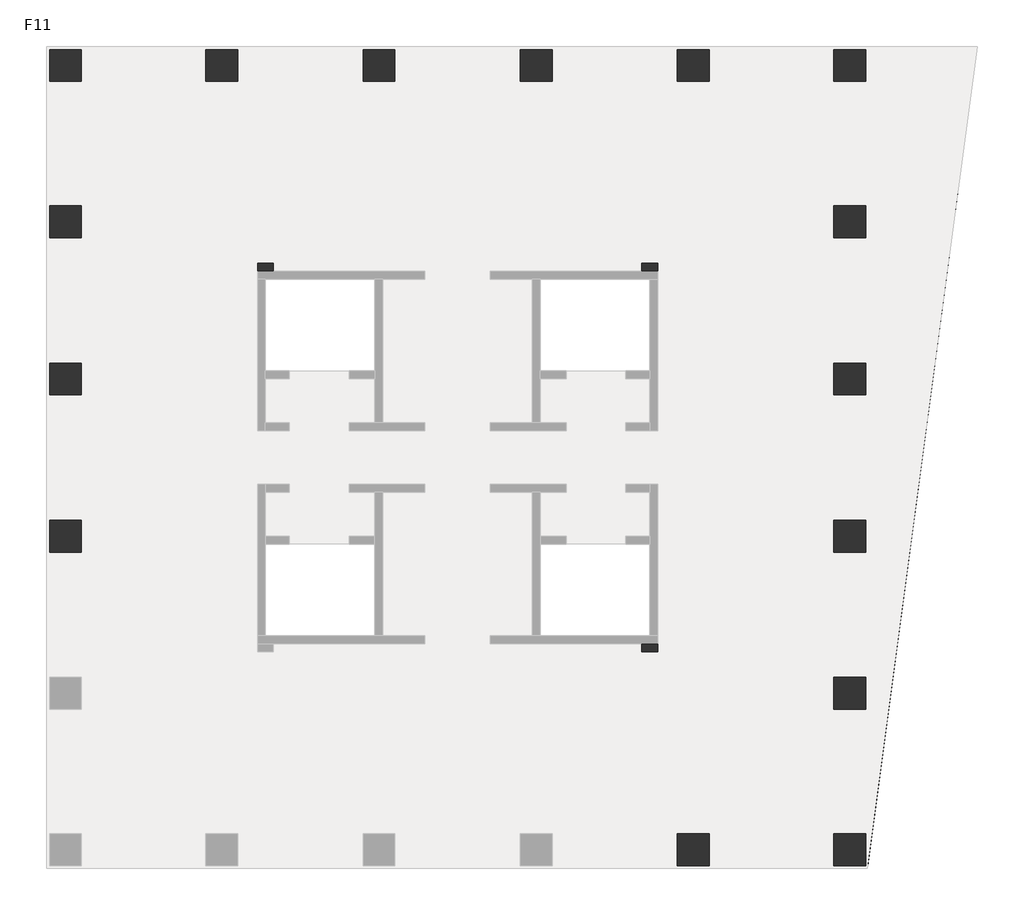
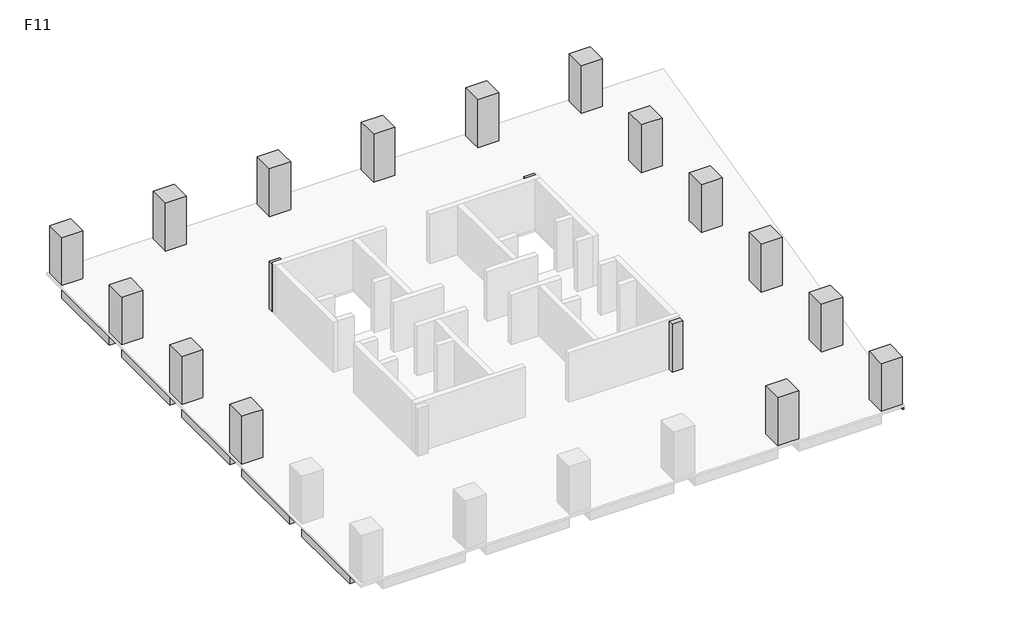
# One storey, part 2 of 2: 21 beams, 18 columns.
"""IFC4 building model written with IfcOpenShell, lengths in millimetres."""

from ifc_helpers import new_model, si_unit, frame, origin, place, context, project, spatial, polyline, outline, extrude, faceted_brep, element, save

model = new_model("IFC4")

# Units and contexts
model_context = context("Model", 3, world=origin())
ifc_project = project(units=[si_unit("LENGTHUNIT", "METRE", prefix="MILLI")], contexts=[model_context])

# Site, building, storey
site = spatial("IfcSite", under=ifc_project)
building = spatial("IfcBuilding", under=site)
storey = spatial("IfcBuildingStorey", under=building, Name="F11", Elevation=44000.0)

# Beams
placement = place(None, origin())
element("IfcBeam", 1, ObjectType="混凝土 - 矩形梁 : KL(5)-800x1000", at=placement, inside=storey, context=model_context, shape_type="SweptSolid", body=[
    extrude(outline(polyline([(25327.3257831, 27051.0498658), (25327.3257831, 26251.0498658), (19077.3257831, 26251.0498658), (19077.3257831, 27051.0498658), (25327.3257831, 27051.0498658)])), frame((0.0, 0.0, 43000.0), z_axis=(0.0, 0.0, 1.0), x_axis=(1.0, 0.0, 0.0)), (0.0, 0.0, 1.0), 840.0),
    extrude(outline(polyline([(-12472.6742169, 26251.0498658), (-12472.6742169, 27051.0498658), (-6222.6742169, 27051.0498658), (-6222.6742169, 26251.0498658), (-12472.6742169, 26251.0498658)])), frame((0.0, 0.0, 43000.0), z_axis=(0.0, 0.0, 1.0), x_axis=(1.0, 0.0, 0.0)), (0.0, 0.0, 1.0), 840.0),
    extrude(outline(polyline([(-4622.6742169, 26251.0498658), (-4622.6742169, 27051.0498658), (1677.3257831, 27051.0498658), (1677.3257831, 26251.0498658), (-4622.6742169, 26251.0498658)])), frame((0.0, 0.0, 43000.0), z_axis=(0.0, 0.0, 1.0), x_axis=(1.0, 0.0, 0.0)), (0.0, 0.0, 1.0), 840.0),
    extrude(outline(polyline([(3277.3257831, 26251.0498658), (3277.3257831, 27051.0498658), (9577.3257831, 27051.0498658), (9577.3257831, 26251.0498658), (3277.3257831, 26251.0498658)])), frame((0.0, 0.0, 43000.0), z_axis=(0.0, 0.0, 1.0), x_axis=(1.0, 0.0, 0.0)), (0.0, 0.0, 1.0), 840.0),
    extrude(outline(polyline([(11177.3257831, 26251.0498658), (11177.3257831, 27051.0498658), (17477.3257831, 27051.0498658), (17477.3257831, 26251.0498658), (11177.3257831, 26251.0498658)])), frame((0.0, 0.0, 43000.0), z_axis=(0.0, 0.0, 1.0), x_axis=(1.0, 0.0, 0.0)), (0.0, 0.0, 1.0), 840.0),
])
element("IfcBeam", 2, ObjectType="混凝土 - 矩形梁 : KL(5)-800x1000", at=placement, inside=storey, context=model_context, shape_type="Brep", body=[
    faceted_brep([(26927.3257831, 26251.0498658, 43000.0), (32422.0087099, 26251.0498658, 43000.0), (32422.0087099, 26251.0498658, 43840.0), (32018.4257091, 26251.0498658, 43840.0), (26927.3257831, 26251.0498658, 43840.0), (32422.0087099, 27051.0498658, 43000.0), (26927.3257831, 27051.0498658, 43000.0), (26927.3257831, 27051.0498658, 43840.0), (32422.0087099, 27051.0498658, 43840.0)], [[[0, 1, 2, 3, 4]], [[5, 1, 0, 6]], [[5, 6, 7, 8]], [[1, 5, 8, 2]], [[6, 0, 4, 7]], [[4, 3, 2, 8, 7]]]),
])
element("IfcBeam", 3, ObjectType="混凝土 - 矩形梁 : KL(5)-800x1000", at=placement, inside=storey, context=model_context, shape_type="Brep", body=[
    faceted_brep([(26127.3257831, -6098.9501342, 43000.0), (26127.3257831, -12348.9501342, 43000.0), (26127.3257831, -12348.9501342, 43840.0), (26127.3257831, -6098.9501342, 43840.0), (26927.3257831, -12348.9501342, 43000.0), (26927.3257831, -6098.9501342, 43000.0), (26927.3257831, -6098.9501342, 43840.0), (26927.3257831, -11700.7859463, 43840.0), (26927.3257831, -12348.9501342, 43840.0)], [[[0, 1, 2, 3]], [[4, 1, 0, 5]], [[4, 5, 6, 7, 8]], [[1, 4, 8, 2]], [[5, 0, 3, 6]], [[3, 2, 8, 7, 6]]]),
    faceted_brep([(26927.3257831, 25451.0498658, 43000.0), (26127.3257831, 25451.0498658, 43000.0), (26127.3257831, 25451.0498658, 43840.0), (26927.3257831, 25451.0498658, 43840.0), (26127.3257831, 19201.0498658, 43000.0), (26927.3257831, 19201.0498658, 43000.0), (26927.3257831, 19201.0498658, 43840.0), (26127.3257831, 19201.0498658, 43840.0)], [[[0, 1, 2, 3]], [[4, 5, 6, 7]], [[1, 4, 7, 2]], [[1, 0, 5, 4]], [[5, 0, 3, 6]], [[3, 2, 7, 6]]]),
    faceted_brep([(26927.3257831, 17601.0498658, 43000.0), (26127.3257831, 17601.0498658, 43000.0), (26127.3257831, 17601.0498658, 43840.0), (26927.3257831, 17601.0498658, 43840.0), (26127.3257831, 11301.0498658, 43000.0), (26927.3257831, 11301.0498658, 43000.0), (26927.3257831, 11301.0498658, 43840.0), (26127.3257831, 11301.0498658, 43840.0)], [[[0, 1, 2, 3]], [[4, 5, 6, 7]], [[1, 4, 7, 2]], [[1, 0, 5, 4]], [[5, 0, 3, 6]], [[3, 2, 7, 6]]]),
    faceted_brep([(26927.3257831, 9701.0498658, 43000.0), (26127.3257831, 9701.0498658, 43000.0), (26127.3257831, 9701.0498658, 43840.0), (26927.3257831, 9701.0498658, 43840.0), (26127.3257831, 3401.0498658, 43000.0), (26927.3257831, 3401.0498658, 43000.0), (26927.3257831, 3401.0498658, 43840.0), (26127.3257831, 3401.0498658, 43840.0)], [[[0, 1, 2, 3]], [[4, 5, 6, 7]], [[1, 4, 7, 2]], [[1, 0, 5, 4]], [[5, 0, 3, 6]], [[3, 2, 7, 6]]]),
    faceted_brep([(26927.3257831, 1801.0498658, 43000.0), (26127.3257831, 1801.0498658, 43000.0), (26127.3257831, 1801.0498658, 43840.0), (26927.3257831, 1801.0498658, 43840.0), (26127.3257831, -4498.9501342, 43000.0), (26927.3257831, -4498.9501342, 43000.0), (26927.3257831, -4498.9501342, 43840.0), (26127.3257831, -4498.9501342, 43840.0)], [[[0, 1, 2, 3]], [[4, 5, 6, 7]], [[1, 4, 7, 2]], [[1, 0, 5, 4]], [[5, 0, 3, 6]], [[3, 2, 7, 6]]]),
])
element("IfcBeam", 4, ObjectType="混凝土 - 矩形梁 : KL(5)-800x1000", at=placement, inside=storey, context=model_context, shape_type="SweptSolid", body=[
    extrude(outline(polyline([(-14072.6742169, 25451.0498658), (-13272.6742169, 25451.0498658), (-13272.6742169, 19201.0498658), (-14072.6742169, 19201.0498658), (-14072.6742169, 25451.0498658)])), frame((0.0, 0.0, 43000.0), z_axis=(0.0, 0.0, 1.0), x_axis=(1.0, 0.0, 0.0)), (0.0, 0.0, 1.0), 840.0),
    extrude(outline(polyline([(-13272.6742169, -12348.9501342), (-14072.6742169, -12348.9501342), (-14072.6742169, -6098.9501342), (-13272.6742169, -6098.9501342), (-13272.6742169, -12348.9501342)])), frame((0.0, 0.0, 43000.0), z_axis=(0.0, 0.0, 1.0), x_axis=(1.0, 0.0, 0.0)), (0.0, 0.0, 1.0), 840.0),
    extrude(outline(polyline([(-14072.6742169, 17601.0498658), (-13272.6742169, 17601.0498658), (-13272.6742169, 11301.0498658), (-14072.6742169, 11301.0498658), (-14072.6742169, 17601.0498658)])), frame((0.0, 0.0, 43000.0), z_axis=(0.0, 0.0, 1.0), x_axis=(1.0, 0.0, 0.0)), (0.0, 0.0, 1.0), 840.0),
    extrude(outline(polyline([(-14072.6742169, 9701.0498658), (-13272.6742169, 9701.0498658), (-13272.6742169, 3401.0498658), (-14072.6742169, 3401.0498658), (-14072.6742169, 9701.0498658)])), frame((0.0, 0.0, 43000.0), z_axis=(0.0, 0.0, 1.0), x_axis=(1.0, 0.0, 0.0)), (0.0, 0.0, 1.0), 840.0),
    extrude(outline(polyline([(-14072.6742169, 1801.0498658), (-13272.6742169, 1801.0498658), (-13272.6742169, -4498.9501342), (-14072.6742169, -4498.9501342), (-14072.6742169, 1801.0498658)])), frame((0.0, 0.0, 43000.0), z_axis=(0.0, 0.0, 1.0), x_axis=(1.0, 0.0, 0.0)), (0.0, 0.0, 1.0), 840.0),
])
element("IfcBeam", 5, ObjectType="混凝土 - 矩形梁 : L1-800x500", at=placement, inside=storey, context=model_context, shape_type="SweptSolid", body=[
    extrude(outline(polyline([(-12472.6742169, 2201.0498658), (-12472.6742169, 3001.0498658), (-3622.6742169, 3001.0498658), (-3622.6742169, 2201.0498658), (-12472.6742169, 2201.0498658)])), frame((0.0, 0.0, 43500.0), z_axis=(0.0, 0.0, 1.0), x_axis=(1.0, 0.0, 0.0)), (0.0, 0.0, 1.0), 340.0),
])
element("IfcBeam", 6, ObjectType="混凝土 - 矩形梁 : L1-800x500", at=placement, inside=storey, context=model_context, shape_type="SweptSolid", body=[
    extrude(outline(polyline([(-12472.6742169, 10101.0498658), (-12472.6742169, 10901.0498658), (-3622.6742169, 10901.0498658), (-3622.6742169, 10101.0498658), (-12472.6742169, 10101.0498658)])), frame((0.0, 0.0, 43500.0), z_axis=(0.0, 0.0, 1.0), x_axis=(1.0, 0.0, 0.0)), (0.0, 0.0, 1.0), 340.0),
])
element("IfcBeam", 7, ObjectType="混凝土 - 矩形梁 : L1-800x500", at=placement, inside=storey, context=model_context, shape_type="Brep", body=[
    faceted_brep([(-12472.6742169, 17789.85471, 43500.0), (-3622.6742169, 15588.3621727, 43500.0), (-3622.6742169, 15588.3621727, 43840.0), (-12472.6742169, 17789.85471, 43840.0), (-3173.6696907, 16301.0498658, 43500.0), (-3622.6742169, 16301.0498658, 43500.0), (-3622.6742169, 15901.0498658, 43500.0), (-12472.6742169, 18614.2350714, 43500.0), (-3746.9473979, 16443.6562607, 43500.0), (-12472.6742169, 18614.2350714, 43840.0), (-3746.9473979, 16443.6562607, 43840.0), (-3173.6696907, 16301.0498658, 43840.0), (-3622.6742169, 16301.0498658, 43840.0)], [[[0, 1, 2, 3]], [[4, 5, 6, 1, 0, 7, 8]], [[4, 8, 7, 9, 10, 11]], [[6, 5, 12, 2, 1]], [[5, 4, 11, 12]], [[7, 0, 3, 9]], [[3, 2, 12, 11, 10, 9]]]),
])
element("IfcBeam", 8, ObjectType="混凝土 - 矩形梁 : L1-800x500", at=placement, inside=storey, context=model_context, shape_type="SweptSolid", body=[
    extrude(outline(polyline([(-3173.6696907, 16301.0498658), (-3746.9473979, 16443.6562607), (-5661.5624638, 25451.0498658), (-4843.6893517, 25451.0498658), (-2898.7618154, 16301.0498658), (-3173.6696907, 16301.0498658)])), frame((0.0, 0.0, 43500.0), z_axis=(0.0, 0.0, 1.0), x_axis=(1.0, 0.0, 0.0)), (0.0, 0.0, 1.0), 340.0),
])
element("IfcBeam", 9, ObjectType="混凝土 - 矩形梁 : L1-800x500", at=placement, inside=storey, context=model_context, shape_type="SweptSolid", body=[
    extrude(outline(polyline([(2077.3257831, 25451.0498658), (2877.3257831, 25451.0498658), (2877.3257831, 15901.0498658), (2077.3257831, 15901.0498658), (2077.3257831, 25451.0498658)])), frame((0.0, 0.0, 43500.0), z_axis=(0.0, 0.0, 1.0), x_axis=(1.0, 0.0, 0.0)), (0.0, 0.0, 1.0), 340.0),
])
element("IfcBeam", 10, ObjectType="混凝土 - 矩形梁 : L1-800x500", at=placement, inside=storey, context=model_context, shape_type="SweptSolid", body=[
    extrude(outline(polyline([(9977.3257831, 25451.0498658), (10777.3257831, 25451.0498658), (10777.3257831, 15901.0498658), (9977.3257831, 15901.0498658), (9977.3257831, 25451.0498658)])), frame((0.0, 0.0, 43500.0), z_axis=(0.0, 0.0, 1.0), x_axis=(1.0, 0.0, 0.0)), (0.0, 0.0, 1.0), 340.0),
])
element("IfcBeam", 11, ObjectType="混凝土 - 矩形梁 : L1-800x500", at=placement, inside=storey, context=model_context, shape_type="Brep", body=[
    faceted_brep([(25327.3257831, -4687.7549784, 43500.0), (16477.3257831, -2486.2624411, 43500.0), (16477.3257831, -2486.2624411, 43840.0), (25327.3257831, -4687.7549784, 43840.0), (16028.3212569, -3198.9501342, 43500.0), (16477.3257831, -3198.9501342, 43500.0), (16477.3257831, -2798.9501342, 43500.0), (25327.3257831, -5512.1353397, 43500.0), (16601.5989641, -3341.556529, 43500.0), (25327.3257831, -5512.1353397, 43840.0), (16601.5989641, -3341.556529, 43840.0), (16028.3212569, -3198.9501342, 43840.0), (16477.3257831, -3198.9501342, 43840.0)], [[[0, 1, 2, 3]], [[4, 5, 6, 1, 0, 7, 8]], [[4, 8, 7, 9, 10, 11]], [[6, 5, 12, 2, 1]], [[5, 4, 11, 12]], [[7, 0, 3, 9]], [[3, 2, 12, 11, 10, 9]]]),
])
element("IfcBeam", 12, ObjectType="混凝土 - 矩形梁 : L1-800x500", at=placement, inside=storey, context=model_context, shape_type="SweptSolid", body=[
    extrude(outline(polyline([(16028.3212569, -3198.9501342), (16601.5989641, -3341.556529), (18516.21403, -12348.9501342), (17698.3409179, -12348.9501342), (15753.4133817, -3198.9501342), (16028.3212569, -3198.9501342)])), frame((0.0, 0.0, 43500.0), z_axis=(0.0, 0.0, 1.0), x_axis=(1.0, 0.0, 0.0)), (0.0, 0.0, 1.0), 340.0),
])
element("IfcBeam", 13, ObjectType="混凝土 - 矩形梁 : L1-800x500", at=placement, inside=storey, context=model_context, shape_type="SweptSolid", body=[
    extrude(outline(polyline([(25327.3257831, 3001.0498658), (25327.3257831, 2201.0498658), (16477.3257831, 2201.0498658), (16477.3257831, 3001.0498658), (25327.3257831, 3001.0498658)])), frame((0.0, 0.0, 43500.0), z_axis=(0.0, 0.0, 1.0), x_axis=(1.0, 0.0, 0.0)), (0.0, 0.0, 1.0), 340.0),
])
element("IfcBeam", 14, ObjectType="混凝土 - 矩形梁 : L1-800x500", at=placement, inside=storey, context=model_context, shape_type="SweptSolid", body=[
    extrude(outline(polyline([(25327.3257831, 10901.0498658), (25327.3257831, 10101.0498658), (16477.3257831, 10101.0498658), (16477.3257831, 10901.0498658), (25327.3257831, 10901.0498658)])), frame((0.0, 0.0, 43500.0), z_axis=(0.0, 0.0, 1.0), x_axis=(1.0, 0.0, 0.0)), (0.0, 0.0, 1.0), 340.0),
])
element("IfcBeam", 15, ObjectType="混凝土 - 矩形梁 : L1-800x500", at=placement, inside=storey, context=model_context, shape_type="Brep", body=[
    faceted_brep([(25327.3257831, 18610.6867312, 43500.0), (16590.8993897, 16393.3196262, 43500.0), (16227.3565337, 16301.0498658, 43500.0), (16227.3565337, 16301.0498658, 43840.0), (16590.8993897, 16393.3196262, 43840.0), (25327.3257831, 18610.6867312, 43840.0), (16477.3257831, 16301.0498658, 43500.0), (25327.3257831, 17785.3216299, 43500.0), (16477.3257831, 15539.1287365, 43500.0), (16477.3257831, 15901.0498658, 43500.0), (25327.3257831, 17785.3216299, 43840.0), (16477.3257831, 15539.1287365, 43840.0), (16477.3257831, 16301.0498658, 43840.0)], [[[0, 1, 2, 3, 4, 5]], [[6, 2, 1, 0, 7, 8, 9]], [[8, 7, 10, 11]], [[9, 8, 11, 12, 6]], [[2, 6, 12, 3]], [[7, 0, 5, 10]], [[5, 4, 3, 12, 11, 10]]]),
])
element("IfcBeam", 16, ObjectType="混凝土 - 矩形梁 : L1-800x500", at=placement, inside=storey, context=model_context, shape_type="SweptSolid", body=[
    extrude(outline(polyline([(16590.8993897, 16393.3196262), (16227.3565337, 16301.0498658), (15753.4133817, 16301.0498658), (17698.3409179, 25451.0498658), (18516.21403, 25451.0498658), (16590.8993897, 16393.3196262)])), frame((0.0, 0.0, 43500.0), z_axis=(0.0, 0.0, 1.0), x_axis=(1.0, 0.0, 0.0)), (0.0, 0.0, 1.0), 340.0),
])
element("IfcBeam", 17, ObjectType="混凝土 - 矩形梁 : L2-400x400", at=placement, inside=storey, context=model_context, shape_type="Brep", body=[
    faceted_brep([(32422.0087099, 26251.0498658, 43600.0), (27029.3257831, -13948.9501342, 43600.0), (26927.3257831, -13935.2672073, 43600.0), (26927.3257831, -11700.7859463, 43600.0), (27759.2793677, -5498.9501342, 43600.0), (27812.9379042, -5098.9501342, 43600.0), (28819.0354652, 2401.0498658, 43600.0), (28872.6940018, 2801.0498658, 43600.0), (29878.7915628, 10301.0498658, 43600.0), (29932.4500994, 10701.0498658, 43600.0), (30938.5476603, 18201.0498658, 43600.0), (30992.2061969, 18601.0498658, 43600.0), (32018.4257091, 26251.0498658, 43600.0), (32422.0087099, 26251.0498658, 43840.0), (27029.3257831, -13948.9501342, 43840.0), (32018.4257091, 26251.0498658, 43840.0), (26927.3257831, -13935.2672073, 43840.0), (26927.3257831, -12348.9501342, 43840.0), (26927.3257831, -11700.7859463, 43840.0), (27759.2793677, -5498.9501342, 43840.0), (27812.9379042, -5098.9501342, 43840.0), (28819.0354652, 2401.0498658, 43840.0), (28872.6940018, 2801.0498658, 43840.0), (29878.7915628, 10301.0498658, 43840.0), (29932.4500994, 10701.0498658, 43840.0), (30938.5476603, 18201.0498658, 43840.0), (30992.2061969, 18601.0498658, 43840.0)], [[[0, 1, 2, 3, 4, 5, 6, 7, 8, 9, 10, 11, 12]], [[1, 0, 13, 14]], [[0, 12, 15, 13]], [[3, 2, 16, 17, 18]], [[12, 11, 10, 9, 8, 7, 6, 5, 4, 3, 18, 19, 20, 21, 22, 23, 24, 25, 26, 15]], [[2, 1, 14, 16]], [[14, 13, 15, 26, 25, 24, 23, 22, 21, 20, 19, 18, 17, 16]]]),
])
element("IfcBeam", 18, ObjectType="混凝土 - 矩形梁 : L2-400x400", at=placement, inside=storey, context=model_context, shape_type="SweptSolid", body=[
    extrude(outline(polyline([(30938.5476603, 18201.0498658), (26927.3257831, 18201.0498658), (26927.3257831, 18601.0498658), (30992.2061969, 18601.0498658), (30938.5476603, 18201.0498658)])), frame((0.0, 0.0, 43600.0), z_axis=(0.0, 0.0, 1.0), x_axis=(1.0, 0.0, 0.0)), (0.0, 0.0, 1.0), 240.0),
])
element("IfcBeam", 19, ObjectType="混凝土 - 矩形梁 : L2-400x400", at=placement, inside=storey, context=model_context, shape_type="SweptSolid", body=[
    extrude(outline(polyline([(29878.7915628, 10301.0498658), (26927.3257831, 10301.0498658), (26927.3257831, 10701.0498658), (29932.4500994, 10701.0498658), (29878.7915628, 10301.0498658)])), frame((0.0, 0.0, 43600.0), z_axis=(0.0, 0.0, 1.0), x_axis=(1.0, 0.0, 0.0)), (0.0, 0.0, 1.0), 240.0),
])
element("IfcBeam", 20, ObjectType="混凝土 - 矩形梁 : L2-400x400", at=placement, inside=storey, context=model_context, shape_type="SweptSolid", body=[
    extrude(outline(polyline([(28819.0354652, 2401.0498658), (26927.3257831, 2401.0498658), (26927.3257831, 2801.0498658), (28872.6940018, 2801.0498658), (28819.0354652, 2401.0498658)])), frame((0.0, 0.0, 43600.0), z_axis=(0.0, 0.0, 1.0), x_axis=(1.0, 0.0, 0.0)), (0.0, 0.0, 1.0), 240.0),
])
element("IfcBeam", 21, ObjectType="混凝土 - 矩形梁 : L2-400x400", at=placement, inside=storey, context=model_context, shape_type="SweptSolid", body=[
    extrude(outline(polyline([(27759.2793677, -5498.9501342), (26927.3257831, -5498.9501342), (26927.3257831, -5098.9501342), (27812.9379042, -5098.9501342), (27759.2793677, -5498.9501342)])), frame((0.0, 0.0, 43600.0), z_axis=(0.0, 0.0, 1.0), x_axis=(1.0, 0.0, 0.0)), (0.0, 0.0, 1.0), 240.0),
])

# Columns
element("IfcColumn", 22, ObjectType="混凝土 - 矩形 - 柱 : Z1-1600x1600", at=placement, inside=storey, context=model_context, shape_type="SweptSolid", body=[
    extrude(outline(polyline([(-12472.6742169, 27051.0498658), (-12472.6742169, 25451.0498658), (-14072.6742169, 25451.0498658), (-14072.6742169, 27051.0498658), (-12472.6742169, 27051.0498658)])), frame((0.0, 0.0, 44000.0), z_axis=(0.0, 0.0, 1.0), x_axis=(1.0, 0.0, 0.0)), (0.0, 0.0, 1.0), 3840.0),
])
element("IfcColumn", 23, ObjectType="混凝土 - 矩形 - 柱 : Z1-1600x1600", at=placement, inside=storey, context=model_context, shape_type="Brep", body=[
    faceted_brep([(-4622.6742169, 27051.0498658, 44000.0), (-4622.6742169, 25451.0498658, 44000.0), (-6222.6742169, 25451.0498658, 44000.0), (-6222.6742169, 27051.0498658, 44000.0), (-4622.6742169, 27051.0498658, 47000.0), (-4622.6742169, 27051.0498658, 47840.0), (-4622.6742169, 26251.0498658, 47840.0), (-4622.6742169, 25451.0498658, 47840.0), (-6222.6742169, 25451.0498658, 47840.0), (-6222.6742169, 26251.0498658, 47840.0), (-6222.6742169, 27051.0498658, 47840.0), (-6222.6742169, 27051.0498658, 47000.0)], [[[0, 1, 2, 3]], [[1, 0, 4, 5, 6, 7]], [[2, 1, 7, 8]], [[3, 2, 8, 9, 10, 11]], [[0, 3, 11, 10, 5, 4]], [[7, 6, 5, 10, 9, 8]]]),
])
element("IfcColumn", 24, ObjectType="混凝土 - 矩形 - 柱 : Z1-1600x1600", at=placement, inside=storey, context=model_context, shape_type="Brep", body=[
    faceted_brep([(-12472.6742169, 19201.0498658, 44000.0), (-12472.6742169, 17601.0498658, 44000.0), (-14072.6742169, 17601.0498658, 44000.0), (-14072.6742169, 19201.0498658, 44000.0), (-12472.6742169, 19201.0498658, 47840.0), (-12472.6742169, 17601.0498658, 47840.0), (-13272.6742169, 17601.0498658, 47840.0), (-14072.6742169, 17601.0498658, 47840.0), (-14072.6742169, 17601.0498658, 47000.0), (-14072.6742169, 19201.0498658, 47840.0), (-14072.6742169, 19201.0498658, 47000.0), (-13272.6742169, 19201.0498658, 47840.0)], [[[0, 1, 2, 3]], [[1, 0, 4, 5]], [[2, 1, 5, 6, 7, 8]], [[3, 2, 8, 7, 9, 10]], [[0, 3, 10, 9, 11, 4]], [[5, 4, 11, 9, 7, 6]]]),
])
element("IfcColumn", 25, ObjectType="混凝土 - 矩形 - 柱 : Z1-1600x1600", at=placement, inside=storey, context=model_context, shape_type="Brep", body=[
    faceted_brep([(-12472.6742169, 11301.0498658, 44000.0), (-12472.6742169, 9701.0498658, 44000.0), (-14072.6742169, 9701.0498658, 44000.0), (-14072.6742169, 11301.0498658, 44000.0), (-12472.6742169, 11301.0498658, 47840.0), (-12472.6742169, 9701.0498658, 47840.0), (-13272.6742169, 9701.0498658, 47840.0), (-14072.6742169, 9701.0498658, 47840.0), (-14072.6742169, 9701.0498658, 47000.0), (-14072.6742169, 11301.0498658, 47840.0), (-14072.6742169, 11301.0498658, 47000.0), (-13272.6742169, 11301.0498658, 47840.0)], [[[0, 1, 2, 3]], [[1, 0, 4, 5]], [[2, 1, 5, 6, 7, 8]], [[3, 2, 8, 7, 9, 10]], [[0, 3, 10, 9, 11, 4]], [[5, 4, 11, 9, 7, 6]]]),
])
element("IfcColumn", 26, ObjectType="混凝土 - 矩形 - 柱 : Z1-1600x1600", at=placement, inside=storey, context=model_context, shape_type="Brep", body=[
    faceted_brep([(-12472.6742169, 3401.0498658, 44000.0), (-12472.6742169, 1801.0498658, 44000.0), (-14072.6742169, 1801.0498658, 44000.0), (-14072.6742169, 3401.0498658, 44000.0), (-12472.6742169, 3401.0498658, 47840.0), (-12472.6742169, 1801.0498658, 47840.0), (-13272.6742169, 1801.0498658, 47840.0), (-14072.6742169, 1801.0498658, 47840.0), (-14072.6742169, 1801.0498658, 47000.0), (-14072.6742169, 3401.0498658, 47840.0), (-14072.6742169, 3401.0498658, 47000.0), (-13272.6742169, 3401.0498658, 47840.0)], [[[0, 1, 2, 3]], [[1, 0, 4, 5]], [[2, 1, 5, 6, 7, 8]], [[3, 2, 8, 7, 9, 10]], [[0, 3, 10, 9, 11, 4]], [[5, 4, 11, 9, 7, 6]]]),
])
element("IfcColumn", 27, ObjectType="混凝土 - 矩形 - 柱 : Z1-1600x1600", at=placement, inside=storey, context=model_context, shape_type="SweptSolid", body=[
    extrude(outline(polyline([(25327.3257831, 27051.0498658), (26927.3257831, 27051.0498658), (26927.3257831, 25451.0498658), (25327.3257831, 25451.0498658), (25327.3257831, 27051.0498658)])), frame((0.0, 0.0, 44000.0), z_axis=(0.0, 0.0, 1.0), x_axis=(1.0, 0.0, 0.0)), (0.0, 0.0, 1.0), 3840.0),
])
element("IfcColumn", 28, ObjectType="混凝土 - 矩形 - 柱 : Z1-1600x1600", at=placement, inside=storey, context=model_context, shape_type="Brep", body=[
    faceted_brep([(25327.3257831, 19201.0498658, 44000.0), (26927.3257831, 19201.0498658, 44000.0), (26927.3257831, 17601.0498658, 44000.0), (25327.3257831, 17601.0498658, 44000.0), (25327.3257831, 17601.0498658, 47840.0), (25327.3257831, 19201.0498658, 47840.0), (26927.3257831, 17601.0498658, 47000.0), (26927.3257831, 17601.0498658, 47840.0), (26127.3257831, 17601.0498658, 47840.0), (26927.3257831, 19201.0498658, 47000.0), (26927.3257831, 19201.0498658, 47840.0), (26127.3257831, 19201.0498658, 47840.0)], [[[0, 1, 2, 3]], [[0, 3, 4, 5]], [[3, 2, 6, 7, 8, 4]], [[2, 1, 9, 10, 7, 6]], [[1, 0, 5, 11, 10, 9]], [[5, 4, 8, 7, 10, 11]]]),
])
element("IfcColumn", 29, ObjectType="混凝土 - 矩形 - 柱 : Z1-1600x1600", at=placement, inside=storey, context=model_context, shape_type="Brep", body=[
    faceted_brep([(25327.3257831, 11301.0498658, 44000.0), (26927.3257831, 11301.0498658, 44000.0), (26927.3257831, 9701.0498658, 44000.0), (25327.3257831, 9701.0498658, 44000.0), (25327.3257831, 9701.0498658, 47840.0), (25327.3257831, 11301.0498658, 47840.0), (26927.3257831, 9701.0498658, 47000.0), (26927.3257831, 9701.0498658, 47840.0), (26127.3257831, 9701.0498658, 47840.0), (26927.3257831, 11301.0498658, 47000.0), (26927.3257831, 11301.0498658, 47840.0), (26127.3257831, 11301.0498658, 47840.0)], [[[0, 1, 2, 3]], [[0, 3, 4, 5]], [[3, 2, 6, 7, 8, 4]], [[2, 1, 9, 10, 7, 6]], [[1, 0, 5, 11, 10, 9]], [[5, 4, 8, 7, 10, 11]]]),
])
element("IfcColumn", 30, ObjectType="混凝土 - 矩形 - 柱 : Z1-1600x1600", at=placement, inside=storey, context=model_context, shape_type="Brep", body=[
    faceted_brep([(25327.3257831, 3401.0498658, 44000.0), (26927.3257831, 3401.0498658, 44000.0), (26927.3257831, 1801.0498658, 44000.0), (25327.3257831, 1801.0498658, 44000.0), (25327.3257831, 1801.0498658, 47840.0), (25327.3257831, 3401.0498658, 47840.0), (26927.3257831, 1801.0498658, 47000.0), (26927.3257831, 1801.0498658, 47840.0), (26127.3257831, 1801.0498658, 47840.0), (26927.3257831, 3401.0498658, 47000.0), (26927.3257831, 3401.0498658, 47840.0), (26127.3257831, 3401.0498658, 47840.0)], [[[0, 1, 2, 3]], [[0, 3, 4, 5]], [[3, 2, 6, 7, 8, 4]], [[2, 1, 9, 10, 7, 6]], [[1, 0, 5, 11, 10, 9]], [[5, 4, 8, 7, 10, 11]]]),
])
element("IfcColumn", 31, ObjectType="混凝土 - 矩形 - 柱 : Z1-1600x1600", at=placement, inside=storey, context=model_context, shape_type="Brep", body=[
    faceted_brep([(25327.3257831, -4498.9501342, 44000.0), (26927.3257831, -4498.9501342, 44000.0), (26927.3257831, -6098.9501342, 44000.0), (25327.3257831, -6098.9501342, 44000.0), (25327.3257831, -6098.9501342, 47840.0), (25327.3257831, -4498.9501342, 47840.0), (26927.3257831, -6098.9501342, 47000.0), (26927.3257831, -6098.9501342, 47840.0), (26127.3257831, -6098.9501342, 47840.0), (26927.3257831, -4498.9501342, 47000.0), (26927.3257831, -4498.9501342, 47840.0), (26127.3257831, -4498.9501342, 47840.0)], [[[0, 1, 2, 3]], [[0, 3, 4, 5]], [[3, 2, 6, 7, 8, 4]], [[2, 1, 9, 10, 7, 6]], [[1, 0, 5, 11, 10, 9]], [[5, 4, 8, 7, 10, 11]]]),
])
element("IfcColumn", 32, ObjectType="混凝土 - 矩形 - 柱 : Z1-1600x1600", at=placement, inside=storey, context=model_context, shape_type="SweptSolid", body=[
    extrude(outline(polyline([(25327.3257831, -12348.9501342), (26927.3257831, -12348.9501342), (26927.3257831, -13948.9501342), (25327.3257831, -13948.9501342), (25327.3257831, -12348.9501342)])), frame((0.0, 0.0, 44000.0), z_axis=(0.0, 0.0, 1.0), x_axis=(1.0, 0.0, 0.0)), (0.0, 0.0, 1.0), 3840.0),
])
element("IfcColumn", 33, ObjectType="混凝土 - 矩形 - 柱 : Z1-1600x1600", at=placement, inside=storey, context=model_context, shape_type="Brep", body=[
    faceted_brep([(3277.3257831, 27051.0498658, 44000.0), (3277.3257831, 25451.0498658, 44000.0), (1677.3257831, 25451.0498658, 44000.0), (1677.3257831, 27051.0498658, 44000.0), (3277.3257831, 27051.0498658, 47000.0), (3277.3257831, 27051.0498658, 47840.0), (3277.3257831, 26251.0498658, 47840.0), (3277.3257831, 25451.0498658, 47840.0), (1677.3257831, 25451.0498658, 47840.0), (1677.3257831, 26251.0498658, 47840.0), (1677.3257831, 27051.0498658, 47840.0), (1677.3257831, 27051.0498658, 47000.0)], [[[0, 1, 2, 3]], [[1, 0, 4, 5, 6, 7]], [[2, 1, 7, 8]], [[3, 2, 8, 9, 10, 11]], [[0, 3, 11, 10, 5, 4]], [[7, 6, 5, 10, 9, 8]]]),
])
element("IfcColumn", 34, ObjectType="混凝土 - 矩形 - 柱 : Z1-1600x1600", at=placement, inside=storey, context=model_context, shape_type="Brep", body=[
    faceted_brep([(11177.3257831, 27051.0498658, 44000.0), (11177.3257831, 25451.0498658, 44000.0), (9577.3257831, 25451.0498658, 44000.0), (9577.3257831, 27051.0498658, 44000.0), (11177.3257831, 27051.0498658, 47000.0), (11177.3257831, 27051.0498658, 47840.0), (11177.3257831, 26251.0498658, 47840.0), (11177.3257831, 25451.0498658, 47840.0), (9577.3257831, 25451.0498658, 47840.0), (9577.3257831, 26251.0498658, 47840.0), (9577.3257831, 27051.0498658, 47840.0), (9577.3257831, 27051.0498658, 47000.0)], [[[0, 1, 2, 3]], [[1, 0, 4, 5, 6, 7]], [[2, 1, 7, 8]], [[3, 2, 8, 9, 10, 11]], [[0, 3, 11, 10, 5, 4]], [[7, 6, 5, 10, 9, 8]]]),
])
element("IfcColumn", 35, ObjectType="混凝土 - 矩形 - 柱 : Z1-1600x1600", at=placement, inside=storey, context=model_context, shape_type="Brep", body=[
    faceted_brep([(19077.3257831, 27051.0498658, 44000.0), (19077.3257831, 25451.0498658, 44000.0), (17477.3257831, 25451.0498658, 44000.0), (17477.3257831, 27051.0498658, 44000.0), (19077.3257831, 27051.0498658, 47000.0), (19077.3257831, 27051.0498658, 47840.0), (19077.3257831, 26251.0498658, 47840.0), (19077.3257831, 25451.0498658, 47840.0), (17477.3257831, 25451.0498658, 47840.0), (17477.3257831, 26251.0498658, 47840.0), (17477.3257831, 27051.0498658, 47840.0), (17477.3257831, 27051.0498658, 47000.0)], [[[0, 1, 2, 3]], [[1, 0, 4, 5, 6, 7]], [[2, 1, 7, 8]], [[3, 2, 8, 9, 10, 11]], [[0, 3, 11, 10, 5, 4]], [[7, 6, 5, 10, 9, 8]]]),
])
element("IfcColumn", 36, ObjectType="混凝土 - 矩形 - 柱 : Z1-1600x1600", at=placement, inside=storey, context=model_context, shape_type="Brep", body=[
    faceted_brep([(19077.3257831, -12348.9501342, 44000.0), (19077.3257831, -13948.9501342, 44000.0), (17477.3257831, -13948.9501342, 44000.0), (17477.3257831, -12348.9501342, 44000.0), (19077.3257831, -12348.9501342, 47840.0), (19077.3257831, -13148.9501342, 47840.0), (19077.3257831, -13948.9501342, 47840.0), (19077.3257831, -13948.9501342, 47000.0), (17477.3257831, -13948.9501342, 47840.0), (17477.3257831, -13948.9501342, 47000.0), (17477.3257831, -13148.9501342, 47840.0), (17477.3257831, -12348.9501342, 47840.0)], [[[0, 1, 2, 3]], [[1, 0, 4, 5, 6, 7]], [[2, 1, 7, 6, 8, 9]], [[3, 2, 9, 8, 10, 11]], [[0, 3, 11, 4]], [[6, 5, 4, 11, 10, 8]]]),
])
element("IfcColumn", 37, ObjectType="混凝土 - 矩形 - 柱 : Z2-800x800", at=placement, inside=storey, context=model_context, shape_type="SweptSolid", body=[
    extrude(outline(polyline([(-3622.6742169, 16301.0498658), (-2822.6742169, 16301.0498658), (-2822.6742169, 15901.0498658), (-3622.6742169, 15901.0498658), (-3622.6742169, 16301.0498658)])), frame((0.0, 0.0, 44000.0), z_axis=(0.0, 0.0, 1.0), x_axis=(1.0, 0.0, 0.0)), (0.0, 0.0, 1.0), 3840.0),
])
element("IfcColumn", 38, ObjectType="混凝土 - 矩形 - 柱 : Z2-800x800", at=placement, inside=storey, context=model_context, shape_type="SweptSolid", body=[
    extrude(outline(polyline([(16477.3257831, -3198.9501342), (15677.3257831, -3198.9501342), (15677.3257831, -2798.9501342), (16477.3257831, -2798.9501342), (16477.3257831, -3198.9501342)])), frame((0.0, 0.0, 44000.0), z_axis=(0.0, 0.0, 1.0), x_axis=(1.0, 0.0, 0.0)), (0.0, 0.0, 1.0), 3840.0),
])
element("IfcColumn", 39, ObjectType="混凝土 - 矩形 - 柱 : Z2-800x800", at=placement, inside=storey, context=model_context, shape_type="SweptSolid", body=[
    extrude(outline(polyline([(15677.3257831, 16301.0498658), (16477.3257831, 16301.0498658), (16477.3257831, 15901.0498658), (15677.3257831, 15901.0498658), (15677.3257831, 16301.0498658)])), frame((0.0, 0.0, 44000.0), z_axis=(0.0, 0.0, 1.0), x_axis=(1.0, 0.0, 0.0)), (0.0, 0.0, 1.0), 3840.0),
])

save(model, "model.ifc")
